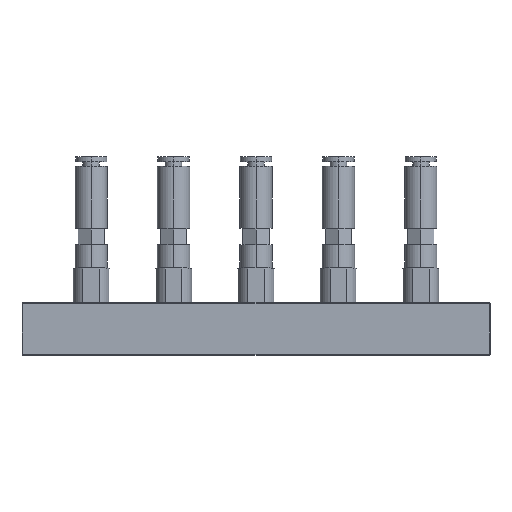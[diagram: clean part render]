
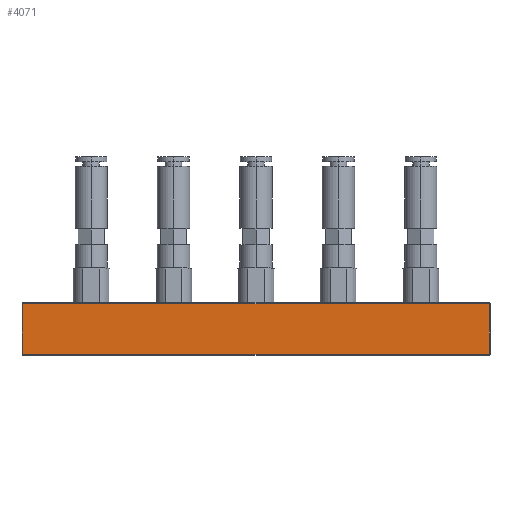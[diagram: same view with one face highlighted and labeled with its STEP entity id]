
A CAD part, top view. The second image highlights one B-rep face of the part: STEP entity #4071.
In plain terms, the highlighted planar face has unit normal (0, 0, 1).
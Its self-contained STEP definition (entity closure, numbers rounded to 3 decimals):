
#101 = DIRECTION ( 'NONE',  ( 0., -1., 0. ) ) ;
#224 = ORIENTED_EDGE ( 'NONE', *, *, #2853, .T. ) ;
#262 = LINE ( 'NONE', #1840, #3098 ) ;
#731 = LINE ( 'NONE', #2458, #4470 ) ;
#844 = EDGE_LOOP ( 'NONE', ( #2809, #4022, #3818, #224 ) ) ;
#1057 = VERTEX_POINT ( 'NONE', #1274 ) ;
#1120 = PLANE ( 'NONE',  #3382 ) ;
#1182 = LINE ( 'NONE', #3561, #1910 ) ;
#1274 = CARTESIAN_POINT ( 'NONE',  ( -70.7, 15.7, 8. ) ) ;
#1406 = DIRECTION ( 'NONE',  ( -1., 0., 0. ) ) ;
#1606 = DIRECTION ( 'NONE',  ( 1., 0., 0. ) ) ;
#1716 = DIRECTION ( 'NONE',  ( 0., 1., 0. ) ) ;
#1840 = CARTESIAN_POINT ( 'NONE',  ( 71., 0.3, 8. ) ) ;
#1910 = VECTOR ( 'NONE', #1406, 1000. ) ;
#2207 = CARTESIAN_POINT ( 'NONE',  ( 70.7, 0.3, 8. ) ) ;
#2271 = CARTESIAN_POINT ( 'NONE',  ( -70.7, 16., 8. ) ) ;
#2447 = EDGE_CURVE ( 'NONE', #4178, #1057, #1182, .T. ) ;
#2458 = CARTESIAN_POINT ( 'NONE',  ( 70.7, 16., 8. ) ) ;
#2529 = VERTEX_POINT ( 'NONE', #2207 ) ;
#2590 = CARTESIAN_POINT ( 'NONE',  ( 70.7, 15.7, 8. ) ) ;
#2654 = VECTOR ( 'NONE', #101, 1000. ) ;
#2723 = EDGE_CURVE ( 'NONE', #1057, #3712, #4524, .T. ) ;
#2809 = ORIENTED_EDGE ( 'NONE', *, *, #2447, .T. ) ;
#2853 = EDGE_CURVE ( 'NONE', #2529, #4178, #731, .T. ) ;
#3098 = VECTOR ( 'NONE', #1606, 1000. ) ;
#3309 = CARTESIAN_POINT ( 'NONE',  ( -70.7, 0.3, 8. ) ) ;
#3382 = AXIS2_PLACEMENT_3D ( 'NONE', #3609, #4385, #3966 ) ;
#3561 = CARTESIAN_POINT ( 'NONE',  ( -71., 15.7, 8. ) ) ;
#3609 = CARTESIAN_POINT ( 'NONE',  ( -71., 16., 8. ) ) ;
#3712 = VERTEX_POINT ( 'NONE', #3309 ) ;
#3741 = EDGE_CURVE ( 'NONE', #3712, #2529, #262, .T. ) ;
#3818 = ORIENTED_EDGE ( 'NONE', *, *, #3741, .T. ) ;
#3873 = FACE_OUTER_BOUND ( 'NONE', #844, .T. ) ;
#3966 = DIRECTION ( 'NONE',  ( -1., 0., 0. ) ) ;
#4022 = ORIENTED_EDGE ( 'NONE', *, *, #2723, .T. ) ;
#4071 = ADVANCED_FACE ( 'NONE', ( #3873 ), #1120, .F. ) ;
#4178 = VERTEX_POINT ( 'NONE', #2590 ) ;
#4385 = DIRECTION ( 'NONE',  ( 0., 0., -1. ) ) ;
#4470 = VECTOR ( 'NONE', #1716, 1000. ) ;
#4524 = LINE ( 'NONE', #2271, #2654 ) ;
